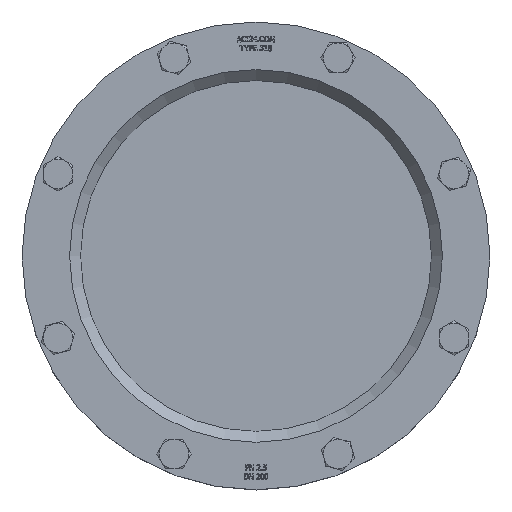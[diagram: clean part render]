
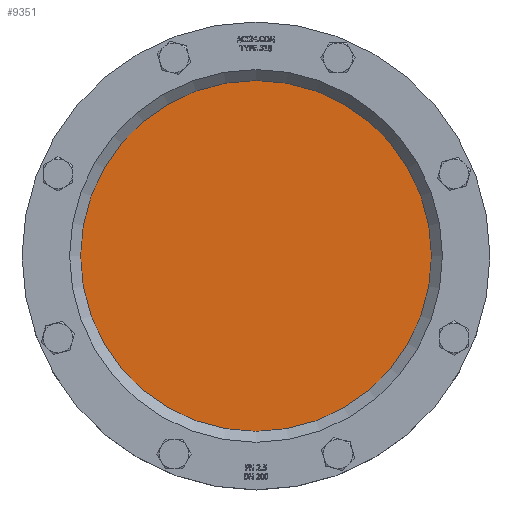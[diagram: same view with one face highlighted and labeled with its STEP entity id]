
A CAD part, top view. The second image highlights one B-rep face of the part: STEP entity #9351.
In plain terms, the highlighted planar face has unit normal (0, 0, 1).
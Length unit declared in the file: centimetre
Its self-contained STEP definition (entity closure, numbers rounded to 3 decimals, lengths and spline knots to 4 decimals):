
#2943=FACE_OUTER_BOUND('',#3469,.T.);
#3469=EDGE_LOOP('',(#6371));
#4062=CIRCLE('',#9881,11.25);
#4134=VERTEX_POINT('',#11963);
#5024=EDGE_CURVE('',#4134,#4134,#4062,.T.);
#6371=ORIENTED_EDGE('',*,*,#5024,.F.);
#9065=PLANE('',#9880);
#9351=ADVANCED_FACE('',(#2943),#9065,.T.);
#9880=AXIS2_PLACEMENT_3D('',#11962,#10303,#10304);
#9881=AXIS2_PLACEMENT_3D('',#11964,#10305,#10306);
#10303=DIRECTION('center_axis',(0.,0.,1.));
#10304=DIRECTION('ref_axis',(1.,0.,0.));
#10305=DIRECTION('center_axis',(0.,0.,-1.));
#10306=DIRECTION('ref_axis',(-1.,0.,0.));
#11962=CARTESIAN_POINT('Origin',(0.,0.,
3.325));
#11963=CARTESIAN_POINT('',(11.25,0.,3.325));
#11964=CARTESIAN_POINT('Origin',(0.,0.,
3.325));
